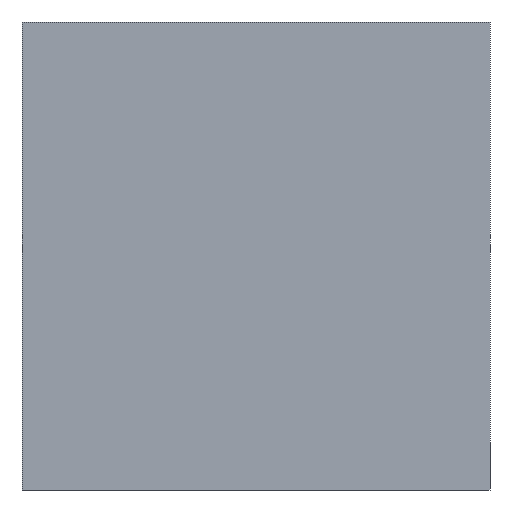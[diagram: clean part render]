
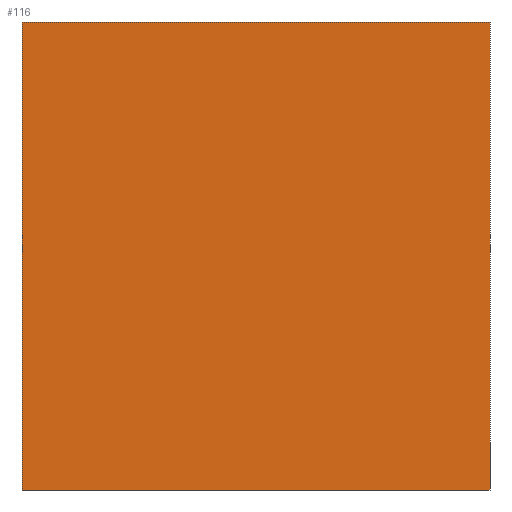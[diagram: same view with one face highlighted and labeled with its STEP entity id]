
A CAD part, front view. The second image highlights one B-rep face of the part: STEP entity #116.
In plain terms, the highlighted planar face has unit normal (0, -1, 0).
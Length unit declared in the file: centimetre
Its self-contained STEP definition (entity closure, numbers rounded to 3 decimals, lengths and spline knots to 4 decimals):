
#10 = PLANE ( 'NONE',  #322 ) ;
#25 = ORIENTED_EDGE ( 'NONE', *, *, #361, .F. ) ;
#39 = CARTESIAN_POINT ( 'NONE',  ( 0., 0., 1000. ) ) ;
#54 = CARTESIAN_POINT ( 'NONE',  ( 1000., 0., 1000. ) ) ;
#85 = CARTESIAN_POINT ( 'NONE',  ( 0., 0., 1000. ) ) ;
#102 = VECTOR ( 'NONE', #176, 100. ) ;
#109 = LINE ( 'NONE', #39, #160 ) ;
#115 = CARTESIAN_POINT ( 'NONE',  ( 1000., 0., 0. ) ) ;
#116 = ADVANCED_FACE ( 'NONE', ( #473 ), #10, .F. ) ;
#138 = CARTESIAN_POINT ( 'NONE',  ( 0., 0., 0. ) ) ;
#155 = LINE ( 'NONE', #452, #321 ) ;
#159 = EDGE_CURVE ( 'NONE', #303, #378, #429, .T. ) ;
#160 = VECTOR ( 'NONE', #268, 100. ) ;
#176 = DIRECTION ( 'NONE',  ( 1., 0., 0. ) ) ;
#180 = EDGE_LOOP ( 'NONE', ( #200, #25, #384, #217 ) ) ;
#189 = CARTESIAN_POINT ( 'NONE',  ( 1000., 0., 1000. ) ) ;
#194 = VERTEX_POINT ( 'NONE', #359 ) ;
#200 = ORIENTED_EDGE ( 'NONE', *, *, #159, .T. ) ;
#217 = ORIENTED_EDGE ( 'NONE', *, *, #412, .T. ) ;
#249 = VECTOR ( 'NONE', #374, 100. ) ;
#255 = VERTEX_POINT ( 'NONE', #54 ) ;
#268 = DIRECTION ( 'NONE',  ( 1., 0., 0. ) ) ;
#275 = DIRECTION ( 'NONE',  ( 0., 1., 0. ) ) ;
#302 = CARTESIAN_POINT ( 'NONE',  ( 0., 0., 0. ) ) ;
#303 = VERTEX_POINT ( 'NONE', #302 ) ;
#313 = DIRECTION ( 'NONE',  ( 0., 0., 1. ) ) ;
#321 = VECTOR ( 'NONE', #333, 100. ) ;
#322 = AXIS2_PLACEMENT_3D ( 'NONE', #85, #275, #313 ) ;
#333 = DIRECTION ( 'NONE',  ( 0., 0., -1. ) ) ;
#359 = CARTESIAN_POINT ( 'NONE',  ( 0., 0., 1000. ) ) ;
#361 = EDGE_CURVE ( 'NONE', #255, #378, #454, .T. ) ;
#364 = EDGE_CURVE ( 'NONE', #194, #255, #109, .T. ) ;
#374 = DIRECTION ( 'NONE',  ( 0., 0., -1. ) ) ;
#378 = VERTEX_POINT ( 'NONE', #115 ) ;
#384 = ORIENTED_EDGE ( 'NONE', *, *, #364, .F. ) ;
#412 = EDGE_CURVE ( 'NONE', #194, #303, #155, .T. ) ;
#429 = LINE ( 'NONE', #138, #102 ) ;
#452 = CARTESIAN_POINT ( 'NONE',  ( 0., 0., 1000. ) ) ;
#454 = LINE ( 'NONE', #189, #249 ) ;
#473 = FACE_OUTER_BOUND ( 'NONE', #180, .T. ) ;
